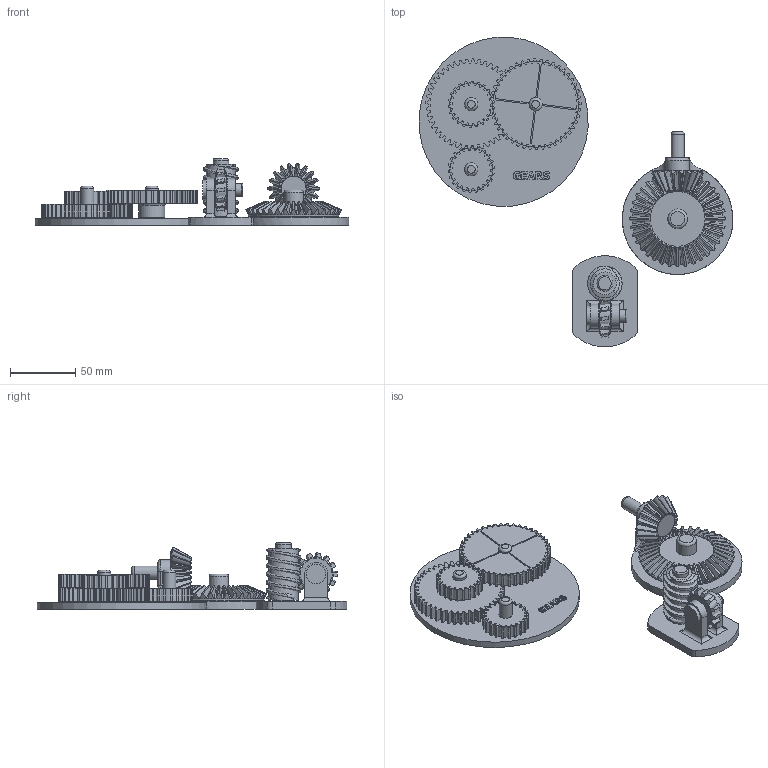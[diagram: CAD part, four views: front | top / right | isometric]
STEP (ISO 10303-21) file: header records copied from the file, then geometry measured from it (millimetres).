
FILE_DESCRIPTION(/* description */ ('','CAx-IF Rec.Pracs.---Representation and Presentation of Product Manufacturing Information (PMI)---4.0---2014-10-13'),/* implementation_level */ '2;1');
FILE_NAME(/* name */ 'sistemi_di_tramissione.stp',/* time_stamp */ '2026-06-10T14:54:46+02:00',/* author */ ('R5800u'),/* organization */ (''),/* preprocessor_version */ 'ST-DEVELOPER v20',/* originating_system */ 'Autodesk Inventor 2025',/* authorisation */ '');
FILE_SCHEMA (('AP242_MANAGED_MODEL_BASED_3D_ENGINEERING_MIM_LF { 1 0 10303 442 1 1 4 }'));
Length unit declared in the file: millimetre
Products named in the file (18): Assieme1; base; Ingranaggio cilindrico11; Assieme3; Ingranaggio cilindrico21; Assieme1_1; Ingranaggi conici; Ingranaggio conico1; Ingranaggio conico2; Parte4; base_comoche; Assieme3_1; Ingranaggi a vite; Vite; Ingranaggio a vite; base_1; Parte8; Parte9
Assembly tree (18 placements, depth 4):
  Assieme1
    base
    Ingranaggio cilindrico11
    Assieme3
    Ingranaggio cilindrico21
    Assieme1_1
      Ingranaggi conici
        Ingranaggio conico1
        Ingranaggio conico2
      Parte4
      base_comoche
    Assieme3_1
      Ingranaggi a vite
        Vite
        Ingranaggio a vite
      base_1
      Parte8
      Parte9  x2
Bounding box: 241.18 x 237.81 x 51 mm (x, y, z)
Volume: 289391.8 mm3; surface area: 133935.4 mm2
Topology: 15 solids, 22 shells, 1190 faces, 3172 edges, 2034 vertices
Faces by surface type: cylinder 619, cone 274, bspline 149, plane 127, torus 21
Full cylindrical faces by diameter (mm): 10 x5, 10.2 x9, 12 x1, 12.2 x2, 14.2 x2, 15 x2, 15.2 x2, 17.6 x5, 20 x4, 22.4 x1, 25 x1, 25.2 x1, 26.4 x4, 26.425 x1, 33 x2, 66 x1, 69.853 x1, 130.198 x1
Entity records: 44532 total; most frequent: CARTESIAN_POINT 13491, DIRECTION 6500, ORIENTED_EDGE 6316, EDGE_CURVE 3164, AXIS2_PLACEMENT_3D 2825, VERTEX_POINT 2030, CIRCLE 1597, EDGE_LOOP 1232
